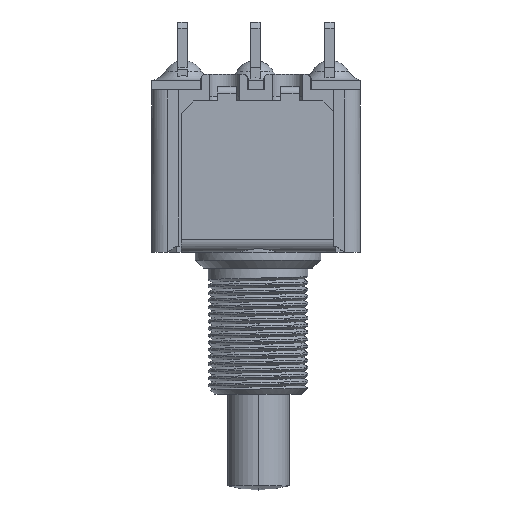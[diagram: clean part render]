
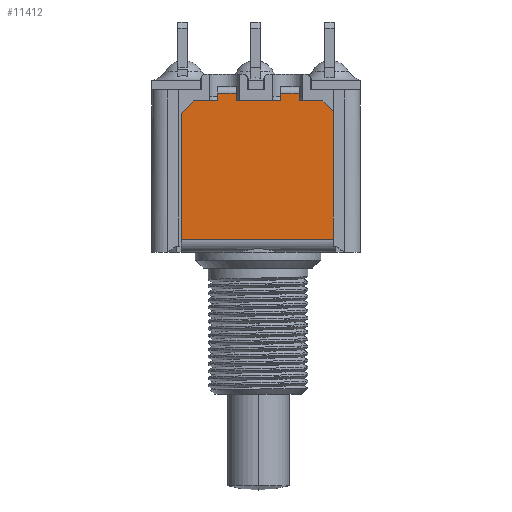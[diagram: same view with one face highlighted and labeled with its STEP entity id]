
A CAD part, front view. The second image highlights one B-rep face of the part: STEP entity #11412.
In plain terms, the highlighted planar face has unit normal (0, -1, 0).
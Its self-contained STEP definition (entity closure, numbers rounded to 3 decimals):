
#697=DIRECTION('',(1.,0.,0.));
#698=VECTOR('',#697,9.65);
#699=CARTESIAN_POINT('',(1.875,0.125,0.8));
#700=LINE('',#699,#698);
#1330=DIRECTION('',(0.,0.,1.));
#1331=VECTOR('',#1330,8.);
#1332=CARTESIAN_POINT('',(1.875,0.125,0.8));
#1333=LINE('',#1332,#1331);
#1355=DIRECTION('',(-1.,0.,0.));
#1356=VECTOR('',#1355,1.5);
#1357=CARTESIAN_POINT('',(4.175,0.125,9.6));
#1358=LINE('',#1357,#1356);
#1364=DIRECTION('',(0.,0.,1.));
#1365=VECTOR('',#1364,0.507);
#1366=CARTESIAN_POINT('',(4.175,0.125,9.6));
#1367=LINE('',#1366,#1365);
#1376=DIRECTION('',(-1.,0.,0.));
#1377=VECTOR('',#1376,1.2);
#1378=CARTESIAN_POINT('',(5.375,0.125,10.107));
#1379=LINE('',#1378,#1377);
#1414=DIRECTION('',(0.,0.,-1.));
#1415=VECTOR('',#1414,0.507);
#1416=CARTESIAN_POINT('',(5.375,0.125,10.107));
#1417=LINE('',#1416,#1415);
#1431=DIRECTION('',(-1.,0.,0.));
#1432=VECTOR('',#1431,2.8);
#1433=CARTESIAN_POINT('',(8.175,0.125,9.6));
#1434=LINE('',#1433,#1432);
#1452=DIRECTION('',(0.,0.,-1.));
#1453=VECTOR('',#1452,0.5);
#1454=CARTESIAN_POINT('',(8.175,0.125,10.1));
#1455=LINE('',#1454,#1453);
#1481=DIRECTION('',(0.,0.,1.));
#1482=VECTOR('',#1481,0.5);
#1483=CARTESIAN_POINT('',(9.375,0.125,9.6));
#1484=LINE('',#1483,#1482);
#1490=DIRECTION('',(-1.,0.,0.));
#1491=VECTOR('',#1490,1.5);
#1492=CARTESIAN_POINT('',(10.875,0.125,9.6));
#1493=LINE('',#1492,#1491);
#1511=DIRECTION('',(0.,0.,-1.));
#1512=VECTOR('',#1511,8.15);
#1513=CARTESIAN_POINT('',(11.525,0.125,8.95));
#1514=LINE('',#1513,#1512);
#1531=DIRECTION('',(-0.707,0.,-0.707));
#1532=VECTOR('',#1531,1.131);
#1533=CARTESIAN_POINT('',(2.675,0.125,9.6));
#1534=LINE('',#1533,#1532);
#1535=DIRECTION('',(-0.707,0.,0.707));
#1536=VECTOR('',#1535,0.919);
#1537=CARTESIAN_POINT('',(11.525,0.125,8.95));
#1538=LINE('',#1537,#1536);
#1543=DIRECTION('',(-1.,0.,0.));
#1544=VECTOR('',#1543,1.2);
#1545=CARTESIAN_POINT('',(9.375,0.125,10.1));
#1546=LINE('',#1545,#1544);
#8403=CARTESIAN_POINT('',(1.875,0.125,0.8));
#8404=VERTEX_POINT('',#8403);
#8405=CARTESIAN_POINT('',(5.375,0.125,10.107));
#8406=CARTESIAN_POINT('',(4.175,0.125,10.107));
#8407=VERTEX_POINT('',#8405);
#8408=VERTEX_POINT('',#8406);
#8409=CARTESIAN_POINT('',(5.375,0.125,9.6));
#8410=VERTEX_POINT('',#8409);
#8411=CARTESIAN_POINT('',(8.175,0.125,9.6));
#8412=VERTEX_POINT('',#8411);
#8413=CARTESIAN_POINT('',(8.175,0.125,10.1));
#8414=VERTEX_POINT('',#8413);
#8415=CARTESIAN_POINT('',(9.375,0.125,10.1));
#8416=VERTEX_POINT('',#8415);
#8417=CARTESIAN_POINT('',(9.375,0.125,9.6));
#8418=VERTEX_POINT('',#8417);
#8419=CARTESIAN_POINT('',(10.875,0.125,9.6));
#8420=VERTEX_POINT('',#8419);
#8421=CARTESIAN_POINT('',(1.875,0.125,8.8));
#8422=VERTEX_POINT('',#8421);
#8423=CARTESIAN_POINT('',(2.675,0.125,9.6));
#8424=VERTEX_POINT('',#8423);
#8425=CARTESIAN_POINT('',(4.175,0.125,9.6));
#8426=VERTEX_POINT('',#8425);
#9138=CARTESIAN_POINT('',(11.525,0.125,0.8));
#9139=VERTEX_POINT('',#9138);
#9140=CARTESIAN_POINT('',(11.525,0.125,8.95));
#9141=VERTEX_POINT('',#9140);
#11390=CARTESIAN_POINT('',(6.775,0.125,5.453));
#11391=DIRECTION('',(0.,1.,0.));
#11392=DIRECTION('',(0.,0.,-1.));
#11393=AXIS2_PLACEMENT_3D('',#11390,#11391,#11392);
#11394=PLANE('',#11393);
#11395=ORIENTED_EDGE('',*,*,#11378,.T.);
#11396=ORIENTED_EDGE('',*,*,#10478,.F.);
#11397=ORIENTED_EDGE('',*,*,#11140,.T.);
#11398=ORIENTED_EDGE('',*,*,#11159,.F.);
#11399=ORIENTED_EDGE('',*,*,#11174,.F.);
#11400=ORIENTED_EDGE('',*,*,#11187,.T.);
#11401=ORIENTED_EDGE('',*,*,#11209,.F.);
#11402=ORIENTED_EDGE('',*,*,#11265,.T.);
#11403=ORIENTED_EDGE('',*,*,#11282,.F.);
#11404=ORIENTED_EDGE('',*,*,#11303,.F.);
#11406=ORIENTED_EDGE('',*,*,#11405,.F.);
#11407=ORIENTED_EDGE('',*,*,#11332,.F.);
#11408=ORIENTED_EDGE('',*,*,#11351,.F.);
#11409=ORIENTED_EDGE('',*,*,#11365,.F.);
#11410=EDGE_LOOP('',(#11395,#11396,#11397,#11398,#11399,#11400,#11401,#11402,
#11403,#11404,#11406,#11407,#11408,#11409));
#11411=FACE_OUTER_BOUND('',#11410,.F.);
#10478=EDGE_CURVE('',#8404,#9139,#700,.T.);
#11140=EDGE_CURVE('',#8404,#8422,#1333,.T.);
#11159=EDGE_CURVE('',#8424,#8422,#1534,.T.);
#11174=EDGE_CURVE('',#8426,#8424,#1358,.T.);
#11187=EDGE_CURVE('',#8426,#8408,#1367,.T.);
#11209=EDGE_CURVE('',#8407,#8408,#1379,.T.);
#11265=EDGE_CURVE('',#8407,#8410,#1417,.T.);
#11282=EDGE_CURVE('',#8412,#8410,#1434,.T.);
#11303=EDGE_CURVE('',#8414,#8412,#1455,.T.);
#11332=EDGE_CURVE('',#8418,#8416,#1484,.T.);
#11351=EDGE_CURVE('',#8420,#8418,#1493,.T.);
#11365=EDGE_CURVE('',#9141,#8420,#1538,.T.);
#11378=EDGE_CURVE('',#9141,#9139,#1514,.T.);
#11405=EDGE_CURVE('',#8416,#8414,#1546,.T.);
#11412=ADVANCED_FACE('',(#11411),#11394,.F.);
